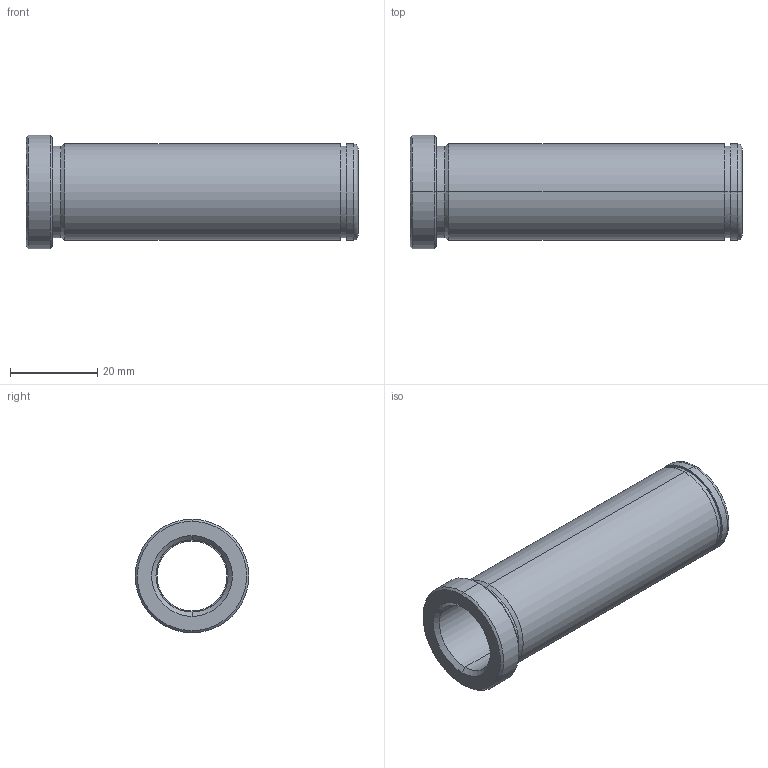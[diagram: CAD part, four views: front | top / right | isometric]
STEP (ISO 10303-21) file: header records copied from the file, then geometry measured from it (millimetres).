
FILE_DESCRIPTION(('CATIA V5 STEP Exchange'),'2;1');
FILE_NAME('C:\Users\Utente\Desktop\IO LAVORO\3D X SITO CF\X SITO\PLASTICA\553\553-16X76.stp','2021-05-21T18:44:16+00:00',('none'),('none'),'CATIA Version 5 Release 20 GA (IN-10)','CATIA V5 STEP AP203','none');
FILE_SCHEMA(('CONFIG_CONTROL_DESIGN'));
Length unit declared in the file: millimetre
Products named in the file (1): 553-16X76
Bounding box: 76 x 26 x 26 mm (x, y, z)
Volume: 13918.1 mm3; surface area: 9814.8 mm2
Topology: 1 solids, 1 shells, 32 faces, 102 edges, 76 vertices
Faces by surface type: cylinder 14, cone 8, plane 6, torus 4
Entity records: 1334 total; most frequent: CARTESIAN_POINT 389, ORIENTED_EDGE 204, DIRECTION 152, EDGE_CURVE 102, AXIS2_PLACEMENT_3D 99, VERTEX_POINT 76, CIRCLE 66, EDGE_LOOP 38
